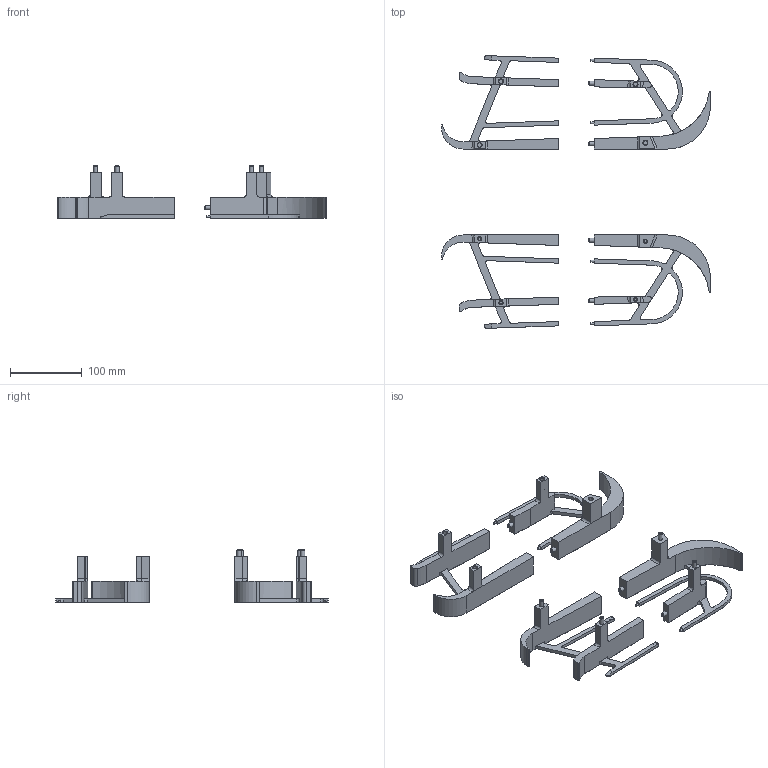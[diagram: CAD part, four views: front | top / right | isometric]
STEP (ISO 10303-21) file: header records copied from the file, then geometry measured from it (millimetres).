
FILE_DESCRIPTION(/* description */ ('AP-214 File'),/* implementation_level */ '2;1');
FILE_NAME(/* name */ 'Dispenser little',/* time_stamp */ 'Thu Aug 12 21:47:34 2021',/* author */ (''),/* organization */ (''),/* preprocessor_version */ 'Autodesk STEP V1',/* originating_system */ 'Autodesk Manufacturing Data Exchange Utility2019.0.0.900002',/* authorisation */ '');
FILE_SCHEMA (('AUTOMOTIVE_DESIGN'));
Bounding box: 375.53 x 380.98 x 74 mm (x, y, z)
Volume: 535355.3 mm3; surface area: 155965.1 mm2
Topology: 4 solids, 4 shells, 456 faces, 1138 edges, 710 vertices
Faces by surface type: plane 236, cylinder 120, cone 100
Full cylindrical faces by diameter (mm): 2.8 x4, 3 x4, 5.8 x8, 6 x8
Entity records: 13558 total; most frequent: CARTESIAN_POINT 2308, DIRECTION 2305, ORIENTED_EDGE 2144, EDGE_CURVE 1072, AXIS2_PLACEMENT_3D 805, LINE 695, VECTOR 695, VERTEX_POINT 692
